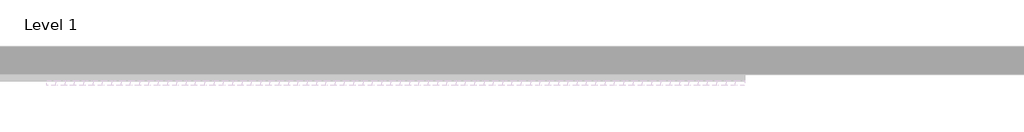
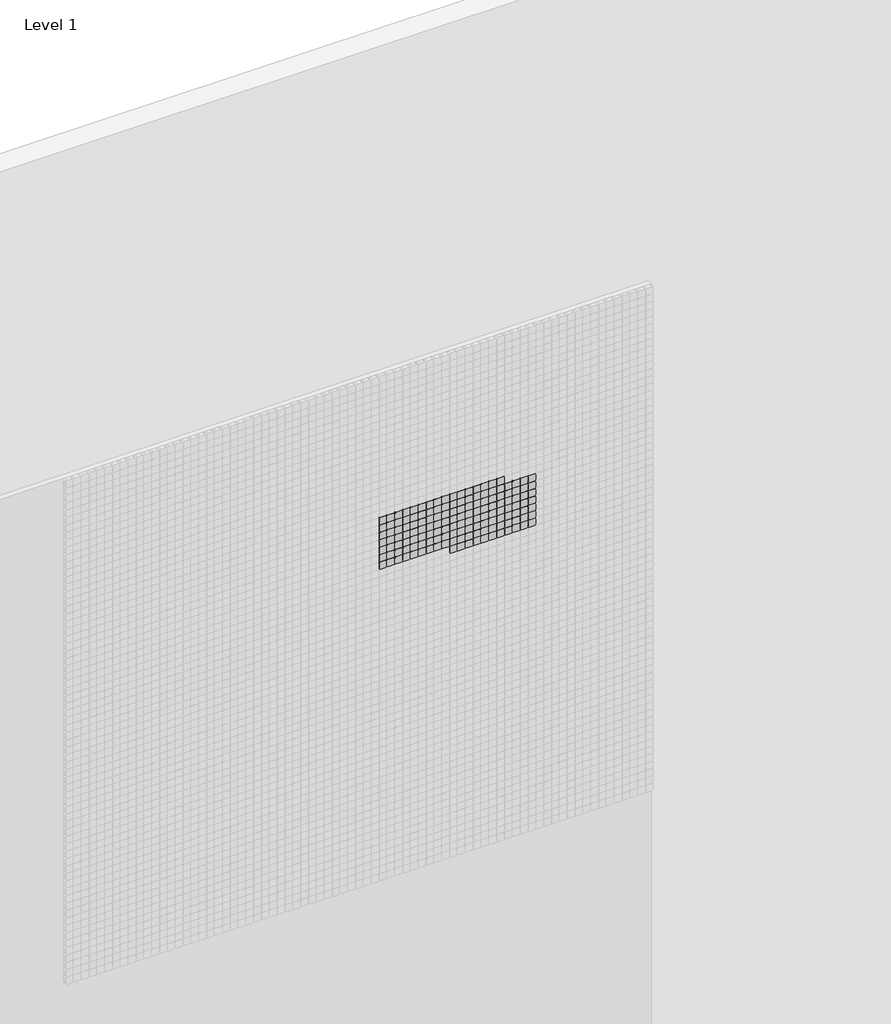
# One storey, part 51 of 71: 147 proxies.
"""IFC4 building model written with IfcOpenShell, lengths in millimetres."""

from ifc_helpers import new_model, si_unit, origin, place, context, project, spatial, transform, mapped, element, save
from components import generic_models_afde289c

model = new_model("IFC4")

# Units and contexts
model_context = context("Model", 3, world=origin())
ifc_project = project(units=[si_unit("LENGTHUNIT", "METRE", prefix="MILLI")], contexts=[model_context])

# Site, building, storey
site = spatial("IfcSite", under=ifc_project)
building = spatial("IfcBuilding", under=site)
storey = spatial("IfcBuildingStorey", under=building, Name="Level 1", Elevation=0.0)

# Proxies
placement = place(None, origin())
generic_models_shape = generic_models_afde289c(model_context)
element("IfcBuildingElementProxy", 1, Name="Pixel_M : Pixel_M", ObjectType="Pixel_M : Pixel_M", at=placement, inside=storey, context=model_context, shape_type="MappedRepresentation", body=[
    mapped(generic_models_shape, transform((8762.4280941, -75.0, 5016.3566215), x_axis=(1.0, 0.0, 0.0), y_axis=(0.0, 0.0, 1.0), z_axis=(0.0, -1.0, 0.0))),
])
element("IfcBuildingElementProxy", 2, Name="Pixel_M : Pixel_M", ObjectType="Pixel_M : Pixel_M", at=placement, inside=storey, context=model_context, shape_type="MappedRepresentation", body=[
    mapped(generic_models_shape, transform((8712.4280941, -75.0, 5016.3566215), x_axis=(1.0, 0.0, 0.0), y_axis=(0.0, 0.0, 1.0), z_axis=(0.0, -1.0, 0.0))),
])
element("IfcBuildingElementProxy", 3, Name="Pixel_M : Pixel_M", ObjectType="Pixel_M : Pixel_M", at=placement, inside=storey, context=model_context, shape_type="MappedRepresentation", body=[
    mapped(generic_models_shape, transform((8662.4280941, -75.0, 5016.3566215), x_axis=(1.0, 0.0, 0.0), y_axis=(0.0, 0.0, 1.0), z_axis=(0.0, -1.0, 0.0))),
])
element("IfcBuildingElementProxy", 4, Name="Pixel_M : Pixel_M", ObjectType="Pixel_M : Pixel_M", at=placement, inside=storey, context=model_context, shape_type="MappedRepresentation", body=[
    mapped(generic_models_shape, transform((8612.4280941, -75.0, 5016.3566215), x_axis=(1.0, 0.0, 0.0), y_axis=(0.0, 0.0, 1.0), z_axis=(0.0, -1.0, 0.0))),
])
element("IfcBuildingElementProxy", 5, Name="Pixel_M : Pixel_M", ObjectType="Pixel_M : Pixel_M", at=placement, inside=storey, context=model_context, shape_type="MappedRepresentation", body=[
    mapped(generic_models_shape, transform((8562.4280941, -75.0, 5016.3566215), x_axis=(1.0, 0.0, 0.0), y_axis=(0.0, 0.0, 1.0), z_axis=(0.0, -1.0, 0.0))),
])
element("IfcBuildingElementProxy", 6, Name="Pixel_M : Pixel_M", ObjectType="Pixel_M : Pixel_M", at=placement, inside=storey, context=model_context, shape_type="MappedRepresentation", body=[
    mapped(generic_models_shape, transform((8512.4280941, -75.0, 5016.3566215), x_axis=(1.0, 0.0, 0.0), y_axis=(0.0, 0.0, 1.0), z_axis=(0.0, -1.0, 0.0))),
])
element("IfcBuildingElementProxy", 7, Name="Pixel_M : Pixel_M", ObjectType="Pixel_M : Pixel_M", at=placement, inside=storey, context=model_context, shape_type="MappedRepresentation", body=[
    mapped(generic_models_shape, transform((8462.4280941, -75.0, 5016.3566215), x_axis=(1.0, 0.0, 0.0), y_axis=(0.0, 0.0, 1.0), z_axis=(0.0, -1.0, 0.0))),
])
element("IfcBuildingElementProxy", 8, Name="Pixel_M : Pixel_M", ObjectType="Pixel_M : Pixel_M", at=placement, inside=storey, context=model_context, shape_type="MappedRepresentation", body=[
    mapped(generic_models_shape, transform((8412.4280941, -75.0, 5016.3566215), x_axis=(1.0, 0.0, 0.0), y_axis=(0.0, 0.0, 1.0), z_axis=(0.0, -1.0, 0.0))),
])
element("IfcBuildingElementProxy", 9, Name="Pixel_M : Pixel_M", ObjectType="Pixel_M : Pixel_M", at=placement, inside=storey, context=model_context, shape_type="MappedRepresentation", body=[
    mapped(generic_models_shape, transform((8362.4280941, -75.0, 5016.3566215), x_axis=(1.0, 0.0, 0.0), y_axis=(0.0, 0.0, 1.0), z_axis=(0.0, -1.0, 0.0))),
])
element("IfcBuildingElementProxy", 10, Name="Pixel_M : Pixel_M", ObjectType="Pixel_M : Pixel_M", at=placement, inside=storey, context=model_context, shape_type="MappedRepresentation", body=[
    mapped(generic_models_shape, transform((8312.4280941, -75.0, 5016.3566215), x_axis=(1.0, 0.0, 0.0), y_axis=(0.0, 0.0, 1.0), z_axis=(0.0, -1.0, 0.0))),
])
element("IfcBuildingElementProxy", 11, Name="Pixel_M : Pixel_M", ObjectType="Pixel_M : Pixel_M", at=placement, inside=storey, context=model_context, shape_type="MappedRepresentation", body=[
    mapped(generic_models_shape, transform((8262.4280941, -75.0, 5016.3566215), x_axis=(1.0, 0.0, 0.0), y_axis=(0.0, 0.0, 1.0), z_axis=(0.0, -1.0, 0.0))),
])
element("IfcBuildingElementProxy", 12, Name="Pixel_M : Pixel_M", ObjectType="Pixel_M : Pixel_M", at=placement, inside=storey, context=model_context, shape_type="MappedRepresentation", body=[
    mapped(generic_models_shape, transform((8212.4280941, -75.0, 5016.3566215), x_axis=(1.0, 0.0, 0.0), y_axis=(0.0, 0.0, 1.0), z_axis=(0.0, -1.0, 0.0))),
])
element("IfcBuildingElementProxy", 13, Name="Pixel_M : Pixel_M", ObjectType="Pixel_M : Pixel_M", at=placement, inside=storey, context=model_context, shape_type="MappedRepresentation", body=[
    mapped(generic_models_shape, transform((8162.4280941, -75.0, 5016.3566215), x_axis=(1.0, 0.0, 0.0), y_axis=(0.0, 0.0, 1.0), z_axis=(0.0, -1.0, 0.0))),
])
element("IfcBuildingElementProxy", 14, Name="Pixel_M : Pixel_M", ObjectType="Pixel_M : Pixel_M", at=placement, inside=storey, context=model_context, shape_type="MappedRepresentation", body=[
    mapped(generic_models_shape, transform((8112.4280941, -75.0, 5016.3566215), x_axis=(1.0, 0.0, 0.0), y_axis=(0.0, 0.0, 1.0), z_axis=(0.0, -1.0, 0.0))),
])
element("IfcBuildingElementProxy", 15, Name="Pixel_M : Pixel_M", ObjectType="Pixel_M : Pixel_M", at=placement, inside=storey, context=model_context, shape_type="MappedRepresentation", body=[
    mapped(generic_models_shape, transform((8062.4280941, -75.0, 5016.3566215), x_axis=(1.0, 0.0, 0.0), y_axis=(0.0, 0.0, 1.0), z_axis=(0.0, -1.0, 0.0))),
])
element("IfcBuildingElementProxy", 16, Name="Pixel_M : Pixel_M", ObjectType="Pixel_M : Pixel_M", at=placement, inside=storey, context=model_context, shape_type="MappedRepresentation", body=[
    mapped(generic_models_shape, transform((8012.4280941, -75.0, 5016.3566215), x_axis=(1.0, 0.0, 0.0), y_axis=(0.0, 0.0, 1.0), z_axis=(0.0, -1.0, 0.0))),
])
element("IfcBuildingElementProxy", 17, Name="Pixel_M : Pixel_M", ObjectType="Pixel_M : Pixel_M", at=placement, inside=storey, context=model_context, shape_type="MappedRepresentation", body=[
    mapped(generic_models_shape, transform((8962.4280941, -75.0, 4966.3566215), x_axis=(1.0, 0.0, 0.0), y_axis=(0.0, 0.0, 1.0), z_axis=(0.0, -1.0, 0.0))),
])
element("IfcBuildingElementProxy", 18, Name="Pixel_M : Pixel_M", ObjectType="Pixel_M : Pixel_M", at=placement, inside=storey, context=model_context, shape_type="MappedRepresentation", body=[
    mapped(generic_models_shape, transform((8912.4280941, -75.0, 4966.3566215), x_axis=(1.0, 0.0, 0.0), y_axis=(0.0, 0.0, 1.0), z_axis=(0.0, -1.0, 0.0))),
])
element("IfcBuildingElementProxy", 19, Name="Pixel_M : Pixel_M", ObjectType="Pixel_M : Pixel_M", at=placement, inside=storey, context=model_context, shape_type="MappedRepresentation", body=[
    mapped(generic_models_shape, transform((8862.4280941, -75.0, 4966.3566215), x_axis=(1.0, 0.0, 0.0), y_axis=(0.0, 0.0, 1.0), z_axis=(0.0, -1.0, 0.0))),
])
element("IfcBuildingElementProxy", 20, Name="Pixel_M : Pixel_M", ObjectType="Pixel_M : Pixel_M", at=placement, inside=storey, context=model_context, shape_type="MappedRepresentation", body=[
    mapped(generic_models_shape, transform((8812.4280941, -75.0, 4966.3566215), x_axis=(1.0, 0.0, 0.0), y_axis=(0.0, 0.0, 1.0), z_axis=(0.0, -1.0, 0.0))),
])
element("IfcBuildingElementProxy", 21, Name="Pixel_M : Pixel_M", ObjectType="Pixel_M : Pixel_M", at=placement, inside=storey, context=model_context, shape_type="MappedRepresentation", body=[
    mapped(generic_models_shape, transform((8762.4280941, -75.0, 4966.3566215), x_axis=(1.0, 0.0, 0.0), y_axis=(0.0, 0.0, 1.0), z_axis=(0.0, -1.0, 0.0))),
])
element("IfcBuildingElementProxy", 22, Name="Pixel_M : Pixel_M", ObjectType="Pixel_M : Pixel_M", at=placement, inside=storey, context=model_context, shape_type="MappedRepresentation", body=[
    mapped(generic_models_shape, transform((8712.4280941, -75.0, 4966.3566215), x_axis=(1.0, 0.0, 0.0), y_axis=(0.0, 0.0, 1.0), z_axis=(0.0, -1.0, 0.0))),
])
element("IfcBuildingElementProxy", 23, Name="Pixel_M : Pixel_M", ObjectType="Pixel_M : Pixel_M", at=placement, inside=storey, context=model_context, shape_type="MappedRepresentation", body=[
    mapped(generic_models_shape, transform((8662.4280941, -75.0, 4966.3566215), x_axis=(1.0, 0.0, 0.0), y_axis=(0.0, 0.0, 1.0), z_axis=(0.0, -1.0, 0.0))),
])
element("IfcBuildingElementProxy", 24, Name="Pixel_M : Pixel_M", ObjectType="Pixel_M : Pixel_M", at=placement, inside=storey, context=model_context, shape_type="MappedRepresentation", body=[
    mapped(generic_models_shape, transform((8612.4280941, -75.0, 4966.3566215), x_axis=(1.0, 0.0, 0.0), y_axis=(0.0, 0.0, 1.0), z_axis=(0.0, -1.0, 0.0))),
])
element("IfcBuildingElementProxy", 25, Name="Pixel_M : Pixel_M", ObjectType="Pixel_M : Pixel_M", at=placement, inside=storey, context=model_context, shape_type="MappedRepresentation", body=[
    mapped(generic_models_shape, transform((8562.4280941, -75.0, 4966.3566215), x_axis=(1.0, 0.0, 0.0), y_axis=(0.0, 0.0, 1.0), z_axis=(0.0, -1.0, 0.0))),
])
element("IfcBuildingElementProxy", 26, Name="Pixel_M : Pixel_M", ObjectType="Pixel_M : Pixel_M", at=placement, inside=storey, context=model_context, shape_type="MappedRepresentation", body=[
    mapped(generic_models_shape, transform((8512.4280941, -75.0, 4966.3566215), x_axis=(1.0, 0.0, 0.0), y_axis=(0.0, 0.0, 1.0), z_axis=(0.0, -1.0, 0.0))),
])
element("IfcBuildingElementProxy", 27, Name="Pixel_M : Pixel_M", ObjectType="Pixel_M : Pixel_M", at=placement, inside=storey, context=model_context, shape_type="MappedRepresentation", body=[
    mapped(generic_models_shape, transform((8462.4280941, -75.0, 4966.3566215), x_axis=(1.0, 0.0, 0.0), y_axis=(0.0, 0.0, 1.0), z_axis=(0.0, -1.0, 0.0))),
])
element("IfcBuildingElementProxy", 28, Name="Pixel_M : Pixel_M", ObjectType="Pixel_M : Pixel_M", at=placement, inside=storey, context=model_context, shape_type="MappedRepresentation", body=[
    mapped(generic_models_shape, transform((8412.4280941, -75.0, 4966.3566215), x_axis=(1.0, 0.0, 0.0), y_axis=(0.0, 0.0, 1.0), z_axis=(0.0, -1.0, 0.0))),
])
element("IfcBuildingElementProxy", 29, Name="Pixel_M : Pixel_M", ObjectType="Pixel_M : Pixel_M", at=placement, inside=storey, context=model_context, shape_type="MappedRepresentation", body=[
    mapped(generic_models_shape, transform((8362.4280941, -75.0, 4966.3566215), x_axis=(1.0, 0.0, 0.0), y_axis=(0.0, 0.0, 1.0), z_axis=(0.0, -1.0, 0.0))),
])
element("IfcBuildingElementProxy", 30, Name="Pixel_M : Pixel_M", ObjectType="Pixel_M : Pixel_M", at=placement, inside=storey, context=model_context, shape_type="MappedRepresentation", body=[
    mapped(generic_models_shape, transform((8312.4280941, -75.0, 4966.3566215), x_axis=(1.0, 0.0, 0.0), y_axis=(0.0, 0.0, 1.0), z_axis=(0.0, -1.0, 0.0))),
])
element("IfcBuildingElementProxy", 31, Name="Pixel_M : Pixel_M", ObjectType="Pixel_M : Pixel_M", at=placement, inside=storey, context=model_context, shape_type="MappedRepresentation", body=[
    mapped(generic_models_shape, transform((8262.4280941, -75.0, 4966.3566215), x_axis=(1.0, 0.0, 0.0), y_axis=(0.0, 0.0, 1.0), z_axis=(0.0, -1.0, 0.0))),
])
element("IfcBuildingElementProxy", 32, Name="Pixel_M : Pixel_M", ObjectType="Pixel_M : Pixel_M", at=placement, inside=storey, context=model_context, shape_type="MappedRepresentation", body=[
    mapped(generic_models_shape, transform((8212.4280941, -75.0, 4966.3566215), x_axis=(1.0, 0.0, 0.0), y_axis=(0.0, 0.0, 1.0), z_axis=(0.0, -1.0, 0.0))),
])
element("IfcBuildingElementProxy", 33, Name="Pixel_M : Pixel_M", ObjectType="Pixel_M : Pixel_M", at=placement, inside=storey, context=model_context, shape_type="MappedRepresentation", body=[
    mapped(generic_models_shape, transform((8162.4280941, -75.0, 4966.3566215), x_axis=(1.0, 0.0, 0.0), y_axis=(0.0, 0.0, 1.0), z_axis=(0.0, -1.0, 0.0))),
])
element("IfcBuildingElementProxy", 34, Name="Pixel_M : Pixel_M", ObjectType="Pixel_M : Pixel_M", at=placement, inside=storey, context=model_context, shape_type="MappedRepresentation", body=[
    mapped(generic_models_shape, transform((8112.4280941, -75.0, 4966.3566215), x_axis=(1.0, 0.0, 0.0), y_axis=(0.0, 0.0, 1.0), z_axis=(0.0, -1.0, 0.0))),
])
element("IfcBuildingElementProxy", 35, Name="Pixel_M : Pixel_M", ObjectType="Pixel_M : Pixel_M", at=placement, inside=storey, context=model_context, shape_type="MappedRepresentation", body=[
    mapped(generic_models_shape, transform((8062.4280941, -75.0, 4966.3566215), x_axis=(1.0, 0.0, 0.0), y_axis=(0.0, 0.0, 1.0), z_axis=(0.0, -1.0, 0.0))),
])
element("IfcBuildingElementProxy", 36, Name="Pixel_M : Pixel_M", ObjectType="Pixel_M : Pixel_M", at=placement, inside=storey, context=model_context, shape_type="MappedRepresentation", body=[
    mapped(generic_models_shape, transform((8012.4280941, -75.0, 4966.3566215), x_axis=(1.0, 0.0, 0.0), y_axis=(0.0, 0.0, 1.0), z_axis=(0.0, -1.0, 0.0))),
])
element("IfcBuildingElementProxy", 37, Name="Pixel_M : Pixel_M", ObjectType="Pixel_M : Pixel_M", at=placement, inside=storey, context=model_context, shape_type="MappedRepresentation", body=[
    mapped(generic_models_shape, transform((8962.4280941, -75.0, 4916.3566215), x_axis=(1.0, 0.0, 0.0), y_axis=(0.0, 0.0, 1.0), z_axis=(0.0, -1.0, 0.0))),
])
element("IfcBuildingElementProxy", 38, Name="Pixel_M : Pixel_M", ObjectType="Pixel_M : Pixel_M", at=placement, inside=storey, context=model_context, shape_type="MappedRepresentation", body=[
    mapped(generic_models_shape, transform((8912.4280941, -75.0, 4916.3566215), x_axis=(1.0, 0.0, 0.0), y_axis=(0.0, 0.0, 1.0), z_axis=(0.0, -1.0, 0.0))),
])
element("IfcBuildingElementProxy", 39, Name="Pixel_M : Pixel_M", ObjectType="Pixel_M : Pixel_M", at=placement, inside=storey, context=model_context, shape_type="MappedRepresentation", body=[
    mapped(generic_models_shape, transform((8862.4280941, -75.0, 4916.3566215), x_axis=(1.0, 0.0, 0.0), y_axis=(0.0, 0.0, 1.0), z_axis=(0.0, -1.0, 0.0))),
])
element("IfcBuildingElementProxy", 40, Name="Pixel_M : Pixel_M", ObjectType="Pixel_M : Pixel_M", at=placement, inside=storey, context=model_context, shape_type="MappedRepresentation", body=[
    mapped(generic_models_shape, transform((8812.4280941, -75.0, 4916.3566215), x_axis=(1.0, 0.0, 0.0), y_axis=(0.0, 0.0, 1.0), z_axis=(0.0, -1.0, 0.0))),
])
element("IfcBuildingElementProxy", 41, Name="Pixel_M : Pixel_M", ObjectType="Pixel_M : Pixel_M", at=placement, inside=storey, context=model_context, shape_type="MappedRepresentation", body=[
    mapped(generic_models_shape, transform((8762.4280941, -75.0, 4916.3566215), x_axis=(1.0, 0.0, 0.0), y_axis=(0.0, 0.0, 1.0), z_axis=(0.0, -1.0, 0.0))),
])
element("IfcBuildingElementProxy", 42, Name="Pixel_M : Pixel_M", ObjectType="Pixel_M : Pixel_M", at=placement, inside=storey, context=model_context, shape_type="MappedRepresentation", body=[
    mapped(generic_models_shape, transform((8712.4280941, -75.0, 4916.3566215), x_axis=(1.0, 0.0, 0.0), y_axis=(0.0, 0.0, 1.0), z_axis=(0.0, -1.0, 0.0))),
])
element("IfcBuildingElementProxy", 43, Name="Pixel_M : Pixel_M", ObjectType="Pixel_M : Pixel_M", at=placement, inside=storey, context=model_context, shape_type="MappedRepresentation", body=[
    mapped(generic_models_shape, transform((8662.4280941, -75.0, 4916.3566215), x_axis=(1.0, 0.0, 0.0), y_axis=(0.0, 0.0, 1.0), z_axis=(0.0, -1.0, 0.0))),
])
element("IfcBuildingElementProxy", 44, Name="Pixel_M : Pixel_M", ObjectType="Pixel_M : Pixel_M", at=placement, inside=storey, context=model_context, shape_type="MappedRepresentation", body=[
    mapped(generic_models_shape, transform((8612.4280941, -75.0, 4916.3566215), x_axis=(1.0, 0.0, 0.0), y_axis=(0.0, 0.0, 1.0), z_axis=(0.0, -1.0, 0.0))),
])
element("IfcBuildingElementProxy", 45, Name="Pixel_M : Pixel_M", ObjectType="Pixel_M : Pixel_M", at=placement, inside=storey, context=model_context, shape_type="MappedRepresentation", body=[
    mapped(generic_models_shape, transform((8562.4280941, -75.0, 4916.3566215), x_axis=(1.0, 0.0, 0.0), y_axis=(0.0, 0.0, 1.0), z_axis=(0.0, -1.0, 0.0))),
])
element("IfcBuildingElementProxy", 46, Name="Pixel_M : Pixel_M", ObjectType="Pixel_M : Pixel_M", at=placement, inside=storey, context=model_context, shape_type="MappedRepresentation", body=[
    mapped(generic_models_shape, transform((8512.4280941, -75.0, 4916.3566215), x_axis=(1.0, 0.0, 0.0), y_axis=(0.0, 0.0, 1.0), z_axis=(0.0, -1.0, 0.0))),
])
element("IfcBuildingElementProxy", 47, Name="Pixel_M : Pixel_M", ObjectType="Pixel_M : Pixel_M", at=placement, inside=storey, context=model_context, shape_type="MappedRepresentation", body=[
    mapped(generic_models_shape, transform((8462.4280941, -75.0, 4916.3566215), x_axis=(1.0, 0.0, 0.0), y_axis=(0.0, 0.0, 1.0), z_axis=(0.0, -1.0, 0.0))),
])
element("IfcBuildingElementProxy", 48, Name="Pixel_M : Pixel_M", ObjectType="Pixel_M : Pixel_M", at=placement, inside=storey, context=model_context, shape_type="MappedRepresentation", body=[
    mapped(generic_models_shape, transform((8412.4280941, -75.0, 4916.3566215), x_axis=(1.0, 0.0, 0.0), y_axis=(0.0, 0.0, 1.0), z_axis=(0.0, -1.0, 0.0))),
])
element("IfcBuildingElementProxy", 49, Name="Pixel_M : Pixel_M", ObjectType="Pixel_M : Pixel_M", at=placement, inside=storey, context=model_context, shape_type="MappedRepresentation", body=[
    mapped(generic_models_shape, transform((8362.4280941, -75.0, 4916.3566215), x_axis=(1.0, 0.0, 0.0), y_axis=(0.0, 0.0, 1.0), z_axis=(0.0, -1.0, 0.0))),
])
element("IfcBuildingElementProxy", 50, Name="Pixel_M : Pixel_M", ObjectType="Pixel_M : Pixel_M", at=placement, inside=storey, context=model_context, shape_type="MappedRepresentation", body=[
    mapped(generic_models_shape, transform((8312.4280941, -75.0, 4916.3566215), x_axis=(1.0, 0.0, 0.0), y_axis=(0.0, 0.0, 1.0), z_axis=(0.0, -1.0, 0.0))),
])
element("IfcBuildingElementProxy", 51, Name="Pixel_M : Pixel_M", ObjectType="Pixel_M : Pixel_M", at=placement, inside=storey, context=model_context, shape_type="MappedRepresentation", body=[
    mapped(generic_models_shape, transform((8262.4280941, -75.0, 4916.3566215), x_axis=(1.0, 0.0, 0.0), y_axis=(0.0, 0.0, 1.0), z_axis=(0.0, -1.0, 0.0))),
])
element("IfcBuildingElementProxy", 52, Name="Pixel_M : Pixel_M", ObjectType="Pixel_M : Pixel_M", at=placement, inside=storey, context=model_context, shape_type="MappedRepresentation", body=[
    mapped(generic_models_shape, transform((8212.4280941, -75.0, 4916.3566215), x_axis=(1.0, 0.0, 0.0), y_axis=(0.0, 0.0, 1.0), z_axis=(0.0, -1.0, 0.0))),
])
element("IfcBuildingElementProxy", 53, Name="Pixel_M : Pixel_M", ObjectType="Pixel_M : Pixel_M", at=placement, inside=storey, context=model_context, shape_type="MappedRepresentation", body=[
    mapped(generic_models_shape, transform((8162.4280941, -75.0, 4916.3566215), x_axis=(1.0, 0.0, 0.0), y_axis=(0.0, 0.0, 1.0), z_axis=(0.0, -1.0, 0.0))),
])
element("IfcBuildingElementProxy", 54, Name="Pixel_M : Pixel_M", ObjectType="Pixel_M : Pixel_M", at=placement, inside=storey, context=model_context, shape_type="MappedRepresentation", body=[
    mapped(generic_models_shape, transform((8112.4280941, -75.0, 4916.3566215), x_axis=(1.0, 0.0, 0.0), y_axis=(0.0, 0.0, 1.0), z_axis=(0.0, -1.0, 0.0))),
])
element("IfcBuildingElementProxy", 55, Name="Pixel_M : Pixel_M", ObjectType="Pixel_M : Pixel_M", at=placement, inside=storey, context=model_context, shape_type="MappedRepresentation", body=[
    mapped(generic_models_shape, transform((8062.4280941, -75.0, 4916.3566215), x_axis=(1.0, 0.0, 0.0), y_axis=(0.0, 0.0, 1.0), z_axis=(0.0, -1.0, 0.0))),
])
element("IfcBuildingElementProxy", 56, Name="Pixel_M : Pixel_M", ObjectType="Pixel_M : Pixel_M", at=placement, inside=storey, context=model_context, shape_type="MappedRepresentation", body=[
    mapped(generic_models_shape, transform((8012.4280941, -75.0, 4916.3566215), x_axis=(1.0, 0.0, 0.0), y_axis=(0.0, 0.0, 1.0), z_axis=(0.0, -1.0, 0.0))),
])
element("IfcBuildingElementProxy", 57, Name="Pixel_M : Pixel_M", ObjectType="Pixel_M : Pixel_M", at=placement, inside=storey, context=model_context, shape_type="MappedRepresentation", body=[
    mapped(generic_models_shape, transform((8962.4280941, -75.0, 4866.3566215), x_axis=(1.0, 0.0, 0.0), y_axis=(0.0, 0.0, 1.0), z_axis=(0.0, -1.0, 0.0))),
])
element("IfcBuildingElementProxy", 58, Name="Pixel_M : Pixel_M", ObjectType="Pixel_M : Pixel_M", at=placement, inside=storey, context=model_context, shape_type="MappedRepresentation", body=[
    mapped(generic_models_shape, transform((8912.4280941, -75.0, 4866.3566215), x_axis=(1.0, 0.0, 0.0), y_axis=(0.0, 0.0, 1.0), z_axis=(0.0, -1.0, 0.0))),
])
element("IfcBuildingElementProxy", 59, Name="Pixel_M : Pixel_M", ObjectType="Pixel_M : Pixel_M", at=placement, inside=storey, context=model_context, shape_type="MappedRepresentation", body=[
    mapped(generic_models_shape, transform((8862.4280941, -75.0, 4866.3566215), x_axis=(1.0, 0.0, 0.0), y_axis=(0.0, 0.0, 1.0), z_axis=(0.0, -1.0, 0.0))),
])
element("IfcBuildingElementProxy", 60, Name="Pixel_M : Pixel_M", ObjectType="Pixel_M : Pixel_M", at=placement, inside=storey, context=model_context, shape_type="MappedRepresentation", body=[
    mapped(generic_models_shape, transform((8812.4280941, -75.0, 4866.3566215), x_axis=(1.0, 0.0, 0.0), y_axis=(0.0, 0.0, 1.0), z_axis=(0.0, -1.0, 0.0))),
])
element("IfcBuildingElementProxy", 61, Name="Pixel_M : Pixel_M", ObjectType="Pixel_M : Pixel_M", at=placement, inside=storey, context=model_context, shape_type="MappedRepresentation", body=[
    mapped(generic_models_shape, transform((8762.4280941, -75.0, 4866.3566215), x_axis=(1.0, 0.0, 0.0), y_axis=(0.0, 0.0, 1.0), z_axis=(0.0, -1.0, 0.0))),
])
element("IfcBuildingElementProxy", 62, Name="Pixel_M : Pixel_M", ObjectType="Pixel_M : Pixel_M", at=placement, inside=storey, context=model_context, shape_type="MappedRepresentation", body=[
    mapped(generic_models_shape, transform((8712.4280941, -75.0, 4866.3566215), x_axis=(1.0, 0.0, 0.0), y_axis=(0.0, 0.0, 1.0), z_axis=(0.0, -1.0, 0.0))),
])
element("IfcBuildingElementProxy", 63, Name="Pixel_M : Pixel_M", ObjectType="Pixel_M : Pixel_M", at=placement, inside=storey, context=model_context, shape_type="MappedRepresentation", body=[
    mapped(generic_models_shape, transform((8662.4280941, -75.0, 4866.3566215), x_axis=(1.0, 0.0, 0.0), y_axis=(0.0, 0.0, 1.0), z_axis=(0.0, -1.0, 0.0))),
])
element("IfcBuildingElementProxy", 64, Name="Pixel_M : Pixel_M", ObjectType="Pixel_M : Pixel_M", at=placement, inside=storey, context=model_context, shape_type="MappedRepresentation", body=[
    mapped(generic_models_shape, transform((8612.4280941, -75.0, 4866.3566215), x_axis=(1.0, 0.0, 0.0), y_axis=(0.0, 0.0, 1.0), z_axis=(0.0, -1.0, 0.0))),
])
element("IfcBuildingElementProxy", 65, Name="Pixel_M : Pixel_M", ObjectType="Pixel_M : Pixel_M", at=placement, inside=storey, context=model_context, shape_type="MappedRepresentation", body=[
    mapped(generic_models_shape, transform((8562.4280941, -75.0, 4866.3566215), x_axis=(1.0, 0.0, 0.0), y_axis=(0.0, 0.0, 1.0), z_axis=(0.0, -1.0, 0.0))),
])
element("IfcBuildingElementProxy", 66, Name="Pixel_M : Pixel_M", ObjectType="Pixel_M : Pixel_M", at=placement, inside=storey, context=model_context, shape_type="MappedRepresentation", body=[
    mapped(generic_models_shape, transform((8512.4280941, -75.0, 4866.3566215), x_axis=(1.0, 0.0, 0.0), y_axis=(0.0, 0.0, 1.0), z_axis=(0.0, -1.0, 0.0))),
])
element("IfcBuildingElementProxy", 67, Name="Pixel_M : Pixel_M", ObjectType="Pixel_M : Pixel_M", at=placement, inside=storey, context=model_context, shape_type="MappedRepresentation", body=[
    mapped(generic_models_shape, transform((8462.4280941, -75.0, 4866.3566215), x_axis=(1.0, 0.0, 0.0), y_axis=(0.0, 0.0, 1.0), z_axis=(0.0, -1.0, 0.0))),
])
element("IfcBuildingElementProxy", 68, Name="Pixel_M : Pixel_M", ObjectType="Pixel_M : Pixel_M", at=placement, inside=storey, context=model_context, shape_type="MappedRepresentation", body=[
    mapped(generic_models_shape, transform((8412.4280941, -75.0, 4866.3566215), x_axis=(1.0, 0.0, 0.0), y_axis=(0.0, 0.0, 1.0), z_axis=(0.0, -1.0, 0.0))),
])
element("IfcBuildingElementProxy", 69, Name="Pixel_M : Pixel_M", ObjectType="Pixel_M : Pixel_M", at=placement, inside=storey, context=model_context, shape_type="MappedRepresentation", body=[
    mapped(generic_models_shape, transform((8362.4280941, -75.0, 4866.3566215), x_axis=(1.0, 0.0, 0.0), y_axis=(0.0, 0.0, 1.0), z_axis=(0.0, -1.0, 0.0))),
])
element("IfcBuildingElementProxy", 70, Name="Pixel_M : Pixel_M", ObjectType="Pixel_M : Pixel_M", at=placement, inside=storey, context=model_context, shape_type="MappedRepresentation", body=[
    mapped(generic_models_shape, transform((8312.4280941, -75.0, 4866.3566215), x_axis=(1.0, 0.0, 0.0), y_axis=(0.0, 0.0, 1.0), z_axis=(0.0, -1.0, 0.0))),
])
element("IfcBuildingElementProxy", 71, Name="Pixel_M : Pixel_M", ObjectType="Pixel_M : Pixel_M", at=placement, inside=storey, context=model_context, shape_type="MappedRepresentation", body=[
    mapped(generic_models_shape, transform((8262.4280941, -75.0, 4866.3566215), x_axis=(1.0, 0.0, 0.0), y_axis=(0.0, 0.0, 1.0), z_axis=(0.0, -1.0, 0.0))),
])
element("IfcBuildingElementProxy", 72, Name="Pixel_M : Pixel_M", ObjectType="Pixel_M : Pixel_M", at=placement, inside=storey, context=model_context, shape_type="MappedRepresentation", body=[
    mapped(generic_models_shape, transform((8212.4280941, -75.0, 4866.3566215), x_axis=(1.0, 0.0, 0.0), y_axis=(0.0, 0.0, 1.0), z_axis=(0.0, -1.0, 0.0))),
])
element("IfcBuildingElementProxy", 73, Name="Pixel_M : Pixel_M", ObjectType="Pixel_M : Pixel_M", at=placement, inside=storey, context=model_context, shape_type="MappedRepresentation", body=[
    mapped(generic_models_shape, transform((8162.4280941, -75.0, 4866.3566215), x_axis=(1.0, 0.0, 0.0), y_axis=(0.0, 0.0, 1.0), z_axis=(0.0, -1.0, 0.0))),
])
element("IfcBuildingElementProxy", 74, Name="Pixel_M : Pixel_M", ObjectType="Pixel_M : Pixel_M", at=placement, inside=storey, context=model_context, shape_type="MappedRepresentation", body=[
    mapped(generic_models_shape, transform((8112.4280941, -75.0, 4866.3566215), x_axis=(1.0, 0.0, 0.0), y_axis=(0.0, 0.0, 1.0), z_axis=(0.0, -1.0, 0.0))),
])
element("IfcBuildingElementProxy", 75, Name="Pixel_M : Pixel_M", ObjectType="Pixel_M : Pixel_M", at=placement, inside=storey, context=model_context, shape_type="MappedRepresentation", body=[
    mapped(generic_models_shape, transform((8062.4280941, -75.0, 4866.3566215), x_axis=(1.0, 0.0, 0.0), y_axis=(0.0, 0.0, 1.0), z_axis=(0.0, -1.0, 0.0))),
])
element("IfcBuildingElementProxy", 76, Name="Pixel_M : Pixel_M", ObjectType="Pixel_M : Pixel_M", at=placement, inside=storey, context=model_context, shape_type="MappedRepresentation", body=[
    mapped(generic_models_shape, transform((8012.4280941, -75.0, 4866.3566215), x_axis=(1.0, 0.0, 0.0), y_axis=(0.0, 0.0, 1.0), z_axis=(0.0, -1.0, 0.0))),
])
element("IfcBuildingElementProxy", 77, Name="Pixel_M : Pixel_M", ObjectType="Pixel_M : Pixel_M", at=placement, inside=storey, context=model_context, shape_type="MappedRepresentation", body=[
    mapped(generic_models_shape, transform((8962.4280941, -75.0, 4816.3566215), x_axis=(1.0, 0.0, 0.0), y_axis=(0.0, 0.0, 1.0), z_axis=(0.0, -1.0, 0.0))),
])
element("IfcBuildingElementProxy", 78, Name="Pixel_M : Pixel_M", ObjectType="Pixel_M : Pixel_M", at=placement, inside=storey, context=model_context, shape_type="MappedRepresentation", body=[
    mapped(generic_models_shape, transform((8912.4280941, -75.0, 4816.3566215), x_axis=(1.0, 0.0, 0.0), y_axis=(0.0, 0.0, 1.0), z_axis=(0.0, -1.0, 0.0))),
])
element("IfcBuildingElementProxy", 79, Name="Pixel_M : Pixel_M", ObjectType="Pixel_M : Pixel_M", at=placement, inside=storey, context=model_context, shape_type="MappedRepresentation", body=[
    mapped(generic_models_shape, transform((8862.4280941, -75.0, 4816.3566215), x_axis=(1.0, 0.0, 0.0), y_axis=(0.0, 0.0, 1.0), z_axis=(0.0, -1.0, 0.0))),
])
element("IfcBuildingElementProxy", 80, Name="Pixel_M : Pixel_M", ObjectType="Pixel_M : Pixel_M", at=placement, inside=storey, context=model_context, shape_type="MappedRepresentation", body=[
    mapped(generic_models_shape, transform((8812.4280941, -75.0, 4816.3566215), x_axis=(1.0, 0.0, 0.0), y_axis=(0.0, 0.0, 1.0), z_axis=(0.0, -1.0, 0.0))),
])
element("IfcBuildingElementProxy", 81, Name="Pixel_M : Pixel_M", ObjectType="Pixel_M : Pixel_M", at=placement, inside=storey, context=model_context, shape_type="MappedRepresentation", body=[
    mapped(generic_models_shape, transform((8762.4280941, -75.0, 4816.3566215), x_axis=(1.0, 0.0, 0.0), y_axis=(0.0, 0.0, 1.0), z_axis=(0.0, -1.0, 0.0))),
])
element("IfcBuildingElementProxy", 82, Name="Pixel_M : Pixel_M", ObjectType="Pixel_M : Pixel_M", at=placement, inside=storey, context=model_context, shape_type="MappedRepresentation", body=[
    mapped(generic_models_shape, transform((8712.4280941, -75.0, 4816.3566215), x_axis=(1.0, 0.0, 0.0), y_axis=(0.0, 0.0, 1.0), z_axis=(0.0, -1.0, 0.0))),
])
element("IfcBuildingElementProxy", 83, Name="Pixel_M : Pixel_M", ObjectType="Pixel_M : Pixel_M", at=placement, inside=storey, context=model_context, shape_type="MappedRepresentation", body=[
    mapped(generic_models_shape, transform((8662.4280941, -75.0, 4816.3566215), x_axis=(1.0, 0.0, 0.0), y_axis=(0.0, 0.0, 1.0), z_axis=(0.0, -1.0, 0.0))),
])
element("IfcBuildingElementProxy", 84, Name="Pixel_M : Pixel_M", ObjectType="Pixel_M : Pixel_M", at=placement, inside=storey, context=model_context, shape_type="MappedRepresentation", body=[
    mapped(generic_models_shape, transform((8612.4280941, -75.0, 4816.3566215), x_axis=(1.0, 0.0, 0.0), y_axis=(0.0, 0.0, 1.0), z_axis=(0.0, -1.0, 0.0))),
])
element("IfcBuildingElementProxy", 85, Name="Pixel_M : Pixel_M", ObjectType="Pixel_M : Pixel_M", at=placement, inside=storey, context=model_context, shape_type="MappedRepresentation", body=[
    mapped(generic_models_shape, transform((8562.4280941, -75.0, 4816.3566215), x_axis=(1.0, 0.0, 0.0), y_axis=(0.0, 0.0, 1.0), z_axis=(0.0, -1.0, 0.0))),
])
element("IfcBuildingElementProxy", 86, Name="Pixel_M : Pixel_M", ObjectType="Pixel_M : Pixel_M", at=placement, inside=storey, context=model_context, shape_type="MappedRepresentation", body=[
    mapped(generic_models_shape, transform((8512.4280941, -75.0, 4816.3566215), x_axis=(1.0, 0.0, 0.0), y_axis=(0.0, 0.0, 1.0), z_axis=(0.0, -1.0, 0.0))),
])
element("IfcBuildingElementProxy", 87, Name="Pixel_M : Pixel_M", ObjectType="Pixel_M : Pixel_M", at=placement, inside=storey, context=model_context, shape_type="MappedRepresentation", body=[
    mapped(generic_models_shape, transform((8462.4280941, -75.0, 4816.3566215), x_axis=(1.0, 0.0, 0.0), y_axis=(0.0, 0.0, 1.0), z_axis=(0.0, -1.0, 0.0))),
])
element("IfcBuildingElementProxy", 88, Name="Pixel_M : Pixel_M", ObjectType="Pixel_M : Pixel_M", at=placement, inside=storey, context=model_context, shape_type="MappedRepresentation", body=[
    mapped(generic_models_shape, transform((8412.4280941, -75.0, 4816.3566215), x_axis=(1.0, 0.0, 0.0), y_axis=(0.0, 0.0, 1.0), z_axis=(0.0, -1.0, 0.0))),
])
element("IfcBuildingElementProxy", 89, Name="Pixel_M : Pixel_M", ObjectType="Pixel_M : Pixel_M", at=placement, inside=storey, context=model_context, shape_type="MappedRepresentation", body=[
    mapped(generic_models_shape, transform((8362.4280941, -75.0, 4816.3566215), x_axis=(1.0, 0.0, 0.0), y_axis=(0.0, 0.0, 1.0), z_axis=(0.0, -1.0, 0.0))),
])
element("IfcBuildingElementProxy", 90, Name="Pixel_M : Pixel_M", ObjectType="Pixel_M : Pixel_M", at=placement, inside=storey, context=model_context, shape_type="MappedRepresentation", body=[
    mapped(generic_models_shape, transform((8312.4280941, -75.0, 4816.3566215), x_axis=(1.0, 0.0, 0.0), y_axis=(0.0, 0.0, 1.0), z_axis=(0.0, -1.0, 0.0))),
])
element("IfcBuildingElementProxy", 91, Name="Pixel_M : Pixel_M", ObjectType="Pixel_M : Pixel_M", at=placement, inside=storey, context=model_context, shape_type="MappedRepresentation", body=[
    mapped(generic_models_shape, transform((8262.4280941, -75.0, 4816.3566215), x_axis=(1.0, 0.0, 0.0), y_axis=(0.0, 0.0, 1.0), z_axis=(0.0, -1.0, 0.0))),
])
element("IfcBuildingElementProxy", 92, Name="Pixel_M : Pixel_M", ObjectType="Pixel_M : Pixel_M", at=placement, inside=storey, context=model_context, shape_type="MappedRepresentation", body=[
    mapped(generic_models_shape, transform((8212.4280941, -75.0, 4816.3566215), x_axis=(1.0, 0.0, 0.0), y_axis=(0.0, 0.0, 1.0), z_axis=(0.0, -1.0, 0.0))),
])
element("IfcBuildingElementProxy", 93, Name="Pixel_M : Pixel_M", ObjectType="Pixel_M : Pixel_M", at=placement, inside=storey, context=model_context, shape_type="MappedRepresentation", body=[
    mapped(generic_models_shape, transform((8162.4280941, -75.0, 4816.3566215), x_axis=(1.0, 0.0, 0.0), y_axis=(0.0, 0.0, 1.0), z_axis=(0.0, -1.0, 0.0))),
])
element("IfcBuildingElementProxy", 94, Name="Pixel_M : Pixel_M", ObjectType="Pixel_M : Pixel_M", at=placement, inside=storey, context=model_context, shape_type="MappedRepresentation", body=[
    mapped(generic_models_shape, transform((8112.4280941, -75.0, 4816.3566215), x_axis=(1.0, 0.0, 0.0), y_axis=(0.0, 0.0, 1.0), z_axis=(0.0, -1.0, 0.0))),
])
element("IfcBuildingElementProxy", 95, Name="Pixel_M : Pixel_M", ObjectType="Pixel_M : Pixel_M", at=placement, inside=storey, context=model_context, shape_type="MappedRepresentation", body=[
    mapped(generic_models_shape, transform((8062.4280941, -75.0, 4816.3566215), x_axis=(1.0, 0.0, 0.0), y_axis=(0.0, 0.0, 1.0), z_axis=(0.0, -1.0, 0.0))),
])
element("IfcBuildingElementProxy", 96, Name="Pixel_M : Pixel_M", ObjectType="Pixel_M : Pixel_M", at=placement, inside=storey, context=model_context, shape_type="MappedRepresentation", body=[
    mapped(generic_models_shape, transform((8012.4280941, -75.0, 4816.3566215), x_axis=(1.0, 0.0, 0.0), y_axis=(0.0, 0.0, 1.0), z_axis=(0.0, -1.0, 0.0))),
])
element("IfcBuildingElementProxy", 97, Name="Pixel_M : Pixel_M", ObjectType="Pixel_M : Pixel_M", at=placement, inside=storey, context=model_context, shape_type="MappedRepresentation", body=[
    mapped(generic_models_shape, transform((8962.4280941, -75.0, 4766.3566215), x_axis=(1.0, 0.0, 0.0), y_axis=(0.0, 0.0, 1.0), z_axis=(0.0, -1.0, 0.0))),
])
element("IfcBuildingElementProxy", 98, Name="Pixel_M : Pixel_M", ObjectType="Pixel_M : Pixel_M", at=placement, inside=storey, context=model_context, shape_type="MappedRepresentation", body=[
    mapped(generic_models_shape, transform((8912.4280941, -75.0, 4766.3566215), x_axis=(1.0, 0.0, 0.0), y_axis=(0.0, 0.0, 1.0), z_axis=(0.0, -1.0, 0.0))),
])
element("IfcBuildingElementProxy", 99, Name="Pixel_M : Pixel_M", ObjectType="Pixel_M : Pixel_M", at=placement, inside=storey, context=model_context, shape_type="MappedRepresentation", body=[
    mapped(generic_models_shape, transform((8862.4280941, -75.0, 4766.3566215), x_axis=(1.0, 0.0, 0.0), y_axis=(0.0, 0.0, 1.0), z_axis=(0.0, -1.0, 0.0))),
])
element("IfcBuildingElementProxy", 100, Name="Pixel_M : Pixel_M", ObjectType="Pixel_M : Pixel_M", at=placement, inside=storey, context=model_context, shape_type="MappedRepresentation", body=[
    mapped(generic_models_shape, transform((8812.4280941, -75.0, 4766.3566215), x_axis=(1.0, 0.0, 0.0), y_axis=(0.0, 0.0, 1.0), z_axis=(0.0, -1.0, 0.0))),
])
element("IfcBuildingElementProxy", 101, Name="Pixel_M : Pixel_M", ObjectType="Pixel_M : Pixel_M", at=placement, inside=storey, context=model_context, shape_type="MappedRepresentation", body=[
    mapped(generic_models_shape, transform((8762.4280941, -75.0, 4766.3566215), x_axis=(1.0, 0.0, 0.0), y_axis=(0.0, 0.0, 1.0), z_axis=(0.0, -1.0, 0.0))),
])
element("IfcBuildingElementProxy", 102, Name="Pixel_M : Pixel_M", ObjectType="Pixel_M : Pixel_M", at=placement, inside=storey, context=model_context, shape_type="MappedRepresentation", body=[
    mapped(generic_models_shape, transform((8712.4280941, -75.0, 4766.3566215), x_axis=(1.0, 0.0, 0.0), y_axis=(0.0, 0.0, 1.0), z_axis=(0.0, -1.0, 0.0))),
])
element("IfcBuildingElementProxy", 103, Name="Pixel_M : Pixel_M", ObjectType="Pixel_M : Pixel_M", at=placement, inside=storey, context=model_context, shape_type="MappedRepresentation", body=[
    mapped(generic_models_shape, transform((8662.4280941, -75.0, 4766.3566215), x_axis=(1.0, 0.0, 0.0), y_axis=(0.0, 0.0, 1.0), z_axis=(0.0, -1.0, 0.0))),
])
element("IfcBuildingElementProxy", 104, Name="Pixel_M : Pixel_M", ObjectType="Pixel_M : Pixel_M", at=placement, inside=storey, context=model_context, shape_type="MappedRepresentation", body=[
    mapped(generic_models_shape, transform((8612.4280941, -75.0, 4766.3566215), x_axis=(1.0, 0.0, 0.0), y_axis=(0.0, 0.0, 1.0), z_axis=(0.0, -1.0, 0.0))),
])
element("IfcBuildingElementProxy", 105, Name="Pixel_M : Pixel_M", ObjectType="Pixel_M : Pixel_M", at=placement, inside=storey, context=model_context, shape_type="MappedRepresentation", body=[
    mapped(generic_models_shape, transform((8562.4280941, -75.0, 4766.3566215), x_axis=(1.0, 0.0, 0.0), y_axis=(0.0, 0.0, 1.0), z_axis=(0.0, -1.0, 0.0))),
])
element("IfcBuildingElementProxy", 106, Name="Pixel_M : Pixel_M", ObjectType="Pixel_M : Pixel_M", at=placement, inside=storey, context=model_context, shape_type="MappedRepresentation", body=[
    mapped(generic_models_shape, transform((8512.4280941, -75.0, 4766.3566215), x_axis=(1.0, 0.0, 0.0), y_axis=(0.0, 0.0, 1.0), z_axis=(0.0, -1.0, 0.0))),
])
element("IfcBuildingElementProxy", 107, Name="Pixel_M : Pixel_M", ObjectType="Pixel_M : Pixel_M", at=placement, inside=storey, context=model_context, shape_type="MappedRepresentation", body=[
    mapped(generic_models_shape, transform((8462.4280941, -75.0, 4766.3566215), x_axis=(1.0, 0.0, 0.0), y_axis=(0.0, 0.0, 1.0), z_axis=(0.0, -1.0, 0.0))),
])
element("IfcBuildingElementProxy", 108, Name="Pixel_M : Pixel_M", ObjectType="Pixel_M : Pixel_M", at=placement, inside=storey, context=model_context, shape_type="MappedRepresentation", body=[
    mapped(generic_models_shape, transform((8412.4280941, -75.0, 4766.3566215), x_axis=(1.0, 0.0, 0.0), y_axis=(0.0, 0.0, 1.0), z_axis=(0.0, -1.0, 0.0))),
])
element("IfcBuildingElementProxy", 109, Name="Pixel_M : Pixel_M", ObjectType="Pixel_M : Pixel_M", at=placement, inside=storey, context=model_context, shape_type="MappedRepresentation", body=[
    mapped(generic_models_shape, transform((8362.4280941, -75.0, 4766.3566215), x_axis=(1.0, 0.0, 0.0), y_axis=(0.0, 0.0, 1.0), z_axis=(0.0, -1.0, 0.0))),
])
element("IfcBuildingElementProxy", 110, Name="Pixel_M : Pixel_M", ObjectType="Pixel_M : Pixel_M", at=placement, inside=storey, context=model_context, shape_type="MappedRepresentation", body=[
    mapped(generic_models_shape, transform((8312.4280941, -75.0, 4766.3566215), x_axis=(1.0, 0.0, 0.0), y_axis=(0.0, 0.0, 1.0), z_axis=(0.0, -1.0, 0.0))),
])
element("IfcBuildingElementProxy", 111, Name="Pixel_M : Pixel_M", ObjectType="Pixel_M : Pixel_M", at=placement, inside=storey, context=model_context, shape_type="MappedRepresentation", body=[
    mapped(generic_models_shape, transform((8262.4280941, -75.0, 4766.3566215), x_axis=(1.0, 0.0, 0.0), y_axis=(0.0, 0.0, 1.0), z_axis=(0.0, -1.0, 0.0))),
])
element("IfcBuildingElementProxy", 112, Name="Pixel_M : Pixel_M", ObjectType="Pixel_M : Pixel_M", at=placement, inside=storey, context=model_context, shape_type="MappedRepresentation", body=[
    mapped(generic_models_shape, transform((8212.4280941, -75.0, 4766.3566215), x_axis=(1.0, 0.0, 0.0), y_axis=(0.0, 0.0, 1.0), z_axis=(0.0, -1.0, 0.0))),
])
element("IfcBuildingElementProxy", 113, Name="Pixel_M : Pixel_M", ObjectType="Pixel_M : Pixel_M", at=placement, inside=storey, context=model_context, shape_type="MappedRepresentation", body=[
    mapped(generic_models_shape, transform((8162.4280941, -75.0, 4766.3566215), x_axis=(1.0, 0.0, 0.0), y_axis=(0.0, 0.0, 1.0), z_axis=(0.0, -1.0, 0.0))),
])
element("IfcBuildingElementProxy", 114, Name="Pixel_M : Pixel_M", ObjectType="Pixel_M : Pixel_M", at=placement, inside=storey, context=model_context, shape_type="MappedRepresentation", body=[
    mapped(generic_models_shape, transform((8112.4280941, -75.0, 4766.3566215), x_axis=(1.0, 0.0, 0.0), y_axis=(0.0, 0.0, 1.0), z_axis=(0.0, -1.0, 0.0))),
])
element("IfcBuildingElementProxy", 115, Name="Pixel_M : Pixel_M", ObjectType="Pixel_M : Pixel_M", at=placement, inside=storey, context=model_context, shape_type="MappedRepresentation", body=[
    mapped(generic_models_shape, transform((8062.4280941, -75.0, 4766.3566215), x_axis=(1.0, 0.0, 0.0), y_axis=(0.0, 0.0, 1.0), z_axis=(0.0, -1.0, 0.0))),
])
element("IfcBuildingElementProxy", 116, Name="Pixel_M : Pixel_M", ObjectType="Pixel_M : Pixel_M", at=placement, inside=storey, context=model_context, shape_type="MappedRepresentation", body=[
    mapped(generic_models_shape, transform((8012.4280941, -75.0, 4766.3566215), x_axis=(1.0, 0.0, 0.0), y_axis=(0.0, 0.0, 1.0), z_axis=(0.0, -1.0, 0.0))),
])
element("IfcBuildingElementProxy", 117, Name="Pixel_M : Pixel_M", ObjectType="Pixel_M : Pixel_M", at=placement, inside=storey, context=model_context, shape_type="MappedRepresentation", body=[
    mapped(generic_models_shape, transform((8962.4280941, -75.0, 4716.3566215), x_axis=(1.0, 0.0, 0.0), y_axis=(0.0, 0.0, 1.0), z_axis=(0.0, -1.0, 0.0))),
])
element("IfcBuildingElementProxy", 118, Name="Pixel_M : Pixel_M", ObjectType="Pixel_M : Pixel_M", at=placement, inside=storey, context=model_context, shape_type="MappedRepresentation", body=[
    mapped(generic_models_shape, transform((8912.4280941, -75.0, 4716.3566215), x_axis=(1.0, 0.0, 0.0), y_axis=(0.0, 0.0, 1.0), z_axis=(0.0, -1.0, 0.0))),
])
element("IfcBuildingElementProxy", 119, Name="Pixel_M : Pixel_M", ObjectType="Pixel_M : Pixel_M", at=placement, inside=storey, context=model_context, shape_type="MappedRepresentation", body=[
    mapped(generic_models_shape, transform((8862.4280941, -75.0, 4716.3566215), x_axis=(1.0, 0.0, 0.0), y_axis=(0.0, 0.0, 1.0), z_axis=(0.0, -1.0, 0.0))),
])
element("IfcBuildingElementProxy", 120, Name="Pixel_M : Pixel_M", ObjectType="Pixel_M : Pixel_M", at=placement, inside=storey, context=model_context, shape_type="MappedRepresentation", body=[
    mapped(generic_models_shape, transform((8812.4280941, -75.0, 4716.3566215), x_axis=(1.0, 0.0, 0.0), y_axis=(0.0, 0.0, 1.0), z_axis=(0.0, -1.0, 0.0))),
])
element("IfcBuildingElementProxy", 121, Name="Pixel_M : Pixel_M", ObjectType="Pixel_M : Pixel_M", at=placement, inside=storey, context=model_context, shape_type="MappedRepresentation", body=[
    mapped(generic_models_shape, transform((8762.4280941, -75.0, 4716.3566215), x_axis=(1.0, 0.0, 0.0), y_axis=(0.0, 0.0, 1.0), z_axis=(0.0, -1.0, 0.0))),
])
element("IfcBuildingElementProxy", 122, Name="Pixel_M : Pixel_M", ObjectType="Pixel_M : Pixel_M", at=placement, inside=storey, context=model_context, shape_type="MappedRepresentation", body=[
    mapped(generic_models_shape, transform((8712.4280941, -75.0, 4716.3566215), x_axis=(1.0, 0.0, 0.0), y_axis=(0.0, 0.0, 1.0), z_axis=(0.0, -1.0, 0.0))),
])
element("IfcBuildingElementProxy", 123, Name="Pixel_M : Pixel_M", ObjectType="Pixel_M : Pixel_M", at=placement, inside=storey, context=model_context, shape_type="MappedRepresentation", body=[
    mapped(generic_models_shape, transform((8662.4280941, -75.0, 4716.3566215), x_axis=(1.0, 0.0, 0.0), y_axis=(0.0, 0.0, 1.0), z_axis=(0.0, -1.0, 0.0))),
])
element("IfcBuildingElementProxy", 124, Name="Pixel_M : Pixel_M", ObjectType="Pixel_M : Pixel_M", at=placement, inside=storey, context=model_context, shape_type="MappedRepresentation", body=[
    mapped(generic_models_shape, transform((8612.4280941, -75.0, 4716.3566215), x_axis=(1.0, 0.0, 0.0), y_axis=(0.0, 0.0, 1.0), z_axis=(0.0, -1.0, 0.0))),
])
element("IfcBuildingElementProxy", 125, Name="Pixel_M : Pixel_M", ObjectType="Pixel_M : Pixel_M", at=placement, inside=storey, context=model_context, shape_type="MappedRepresentation", body=[
    mapped(generic_models_shape, transform((8562.4280941, -75.0, 4716.3566215), x_axis=(1.0, 0.0, 0.0), y_axis=(0.0, 0.0, 1.0), z_axis=(0.0, -1.0, 0.0))),
])
element("IfcBuildingElementProxy", 126, Name="Pixel_M : Pixel_M", ObjectType="Pixel_M : Pixel_M", at=placement, inside=storey, context=model_context, shape_type="MappedRepresentation", body=[
    mapped(generic_models_shape, transform((8512.4280941, -75.0, 4716.3566215), x_axis=(1.0, 0.0, 0.0), y_axis=(0.0, 0.0, 1.0), z_axis=(0.0, -1.0, 0.0))),
])
element("IfcBuildingElementProxy", 127, Name="Pixel_M : Pixel_M", ObjectType="Pixel_M : Pixel_M", at=placement, inside=storey, context=model_context, shape_type="MappedRepresentation", body=[
    mapped(generic_models_shape, transform((8462.4280941, -75.0, 4716.3566215), x_axis=(1.0, 0.0, 0.0), y_axis=(0.0, 0.0, 1.0), z_axis=(0.0, -1.0, 0.0))),
])
element("IfcBuildingElementProxy", 128, Name="Pixel_M : Pixel_M", ObjectType="Pixel_M : Pixel_M", at=placement, inside=storey, context=model_context, shape_type="MappedRepresentation", body=[
    mapped(generic_models_shape, transform((8412.4280941, -75.0, 4716.3566215), x_axis=(1.0, 0.0, 0.0), y_axis=(0.0, 0.0, 1.0), z_axis=(0.0, -1.0, 0.0))),
])
element("IfcBuildingElementProxy", 129, Name="Pixel_M : Pixel_M", ObjectType="Pixel_M : Pixel_M", at=placement, inside=storey, context=model_context, shape_type="MappedRepresentation", body=[
    mapped(generic_models_shape, transform((8362.4280941, -75.0, 4716.3566215), x_axis=(1.0, 0.0, 0.0), y_axis=(0.0, 0.0, 1.0), z_axis=(0.0, -1.0, 0.0))),
])
element("IfcBuildingElementProxy", 130, Name="Pixel_M : Pixel_M", ObjectType="Pixel_M : Pixel_M", at=placement, inside=storey, context=model_context, shape_type="MappedRepresentation", body=[
    mapped(generic_models_shape, transform((8312.4280941, -75.0, 4716.3566215), x_axis=(1.0, 0.0, 0.0), y_axis=(0.0, 0.0, 1.0), z_axis=(0.0, -1.0, 0.0))),
])
element("IfcBuildingElementProxy", 131, Name="Pixel_M : Pixel_M", ObjectType="Pixel_M : Pixel_M", at=placement, inside=storey, context=model_context, shape_type="MappedRepresentation", body=[
    mapped(generic_models_shape, transform((8262.4280941, -75.0, 4716.3566215), x_axis=(1.0, 0.0, 0.0), y_axis=(0.0, 0.0, 1.0), z_axis=(0.0, -1.0, 0.0))),
])
element("IfcBuildingElementProxy", 132, Name="Pixel_M : Pixel_M", ObjectType="Pixel_M : Pixel_M", at=placement, inside=storey, context=model_context, shape_type="MappedRepresentation", body=[
    mapped(generic_models_shape, transform((8212.4280941, -75.0, 4716.3566215), x_axis=(1.0, 0.0, 0.0), y_axis=(0.0, 0.0, 1.0), z_axis=(0.0, -1.0, 0.0))),
])
element("IfcBuildingElementProxy", 133, Name="Pixel_M : Pixel_M", ObjectType="Pixel_M : Pixel_M", at=placement, inside=storey, context=model_context, shape_type="MappedRepresentation", body=[
    mapped(generic_models_shape, transform((8162.4280941, -75.0, 4716.3566215), x_axis=(1.0, 0.0, 0.0), y_axis=(0.0, 0.0, 1.0), z_axis=(0.0, -1.0, 0.0))),
])
element("IfcBuildingElementProxy", 134, Name="Pixel_M : Pixel_M", ObjectType="Pixel_M : Pixel_M", at=placement, inside=storey, context=model_context, shape_type="MappedRepresentation", body=[
    mapped(generic_models_shape, transform((8112.4280941, -75.0, 4716.3566215), x_axis=(1.0, 0.0, 0.0), y_axis=(0.0, 0.0, 1.0), z_axis=(0.0, -1.0, 0.0))),
])
element("IfcBuildingElementProxy", 135, Name="Pixel_M : Pixel_M", ObjectType="Pixel_M : Pixel_M", at=placement, inside=storey, context=model_context, shape_type="MappedRepresentation", body=[
    mapped(generic_models_shape, transform((8062.4280941, -75.0, 4716.3566215), x_axis=(1.0, 0.0, 0.0), y_axis=(0.0, 0.0, 1.0), z_axis=(0.0, -1.0, 0.0))),
])
element("IfcBuildingElementProxy", 136, Name="Pixel_M : Pixel_M", ObjectType="Pixel_M : Pixel_M", at=placement, inside=storey, context=model_context, shape_type="MappedRepresentation", body=[
    mapped(generic_models_shape, transform((8012.4280941, -75.0, 4716.3566215), x_axis=(1.0, 0.0, 0.0), y_axis=(0.0, 0.0, 1.0), z_axis=(0.0, -1.0, 0.0))),
])
element("IfcBuildingElementProxy", 137, Name="Pixel_M : Pixel_M", ObjectType="Pixel_M : Pixel_M", at=placement, inside=storey, context=model_context, shape_type="MappedRepresentation", body=[
    mapped(generic_models_shape, transform((8962.4280941, -75.0, 4666.3566215), x_axis=(1.0, 0.0, 0.0), y_axis=(0.0, 0.0, 1.0), z_axis=(0.0, -1.0, 0.0))),
])
element("IfcBuildingElementProxy", 138, Name="Pixel_M : Pixel_M", ObjectType="Pixel_M : Pixel_M", at=placement, inside=storey, context=model_context, shape_type="MappedRepresentation", body=[
    mapped(generic_models_shape, transform((8912.4280941, -75.0, 4666.3566215), x_axis=(1.0, 0.0, 0.0), y_axis=(0.0, 0.0, 1.0), z_axis=(0.0, -1.0, 0.0))),
])
element("IfcBuildingElementProxy", 139, Name="Pixel_M : Pixel_M", ObjectType="Pixel_M : Pixel_M", at=placement, inside=storey, context=model_context, shape_type="MappedRepresentation", body=[
    mapped(generic_models_shape, transform((8862.4280941, -75.0, 4666.3566215), x_axis=(1.0, 0.0, 0.0), y_axis=(0.0, 0.0, 1.0), z_axis=(0.0, -1.0, 0.0))),
])
element("IfcBuildingElementProxy", 140, Name="Pixel_M : Pixel_M", ObjectType="Pixel_M : Pixel_M", at=placement, inside=storey, context=model_context, shape_type="MappedRepresentation", body=[
    mapped(generic_models_shape, transform((8812.4280941, -75.0, 4666.3566215), x_axis=(1.0, 0.0, 0.0), y_axis=(0.0, 0.0, 1.0), z_axis=(0.0, -1.0, 0.0))),
])
element("IfcBuildingElementProxy", 141, Name="Pixel_M : Pixel_M", ObjectType="Pixel_M : Pixel_M", at=placement, inside=storey, context=model_context, shape_type="MappedRepresentation", body=[
    mapped(generic_models_shape, transform((8762.4280941, -75.0, 4666.3566215), x_axis=(1.0, 0.0, 0.0), y_axis=(0.0, 0.0, 1.0), z_axis=(0.0, -1.0, 0.0))),
])
element("IfcBuildingElementProxy", 142, Name="Pixel_M : Pixel_M", ObjectType="Pixel_M : Pixel_M", at=placement, inside=storey, context=model_context, shape_type="MappedRepresentation", body=[
    mapped(generic_models_shape, transform((8712.4280941, -75.0, 4666.3566215), x_axis=(1.0, 0.0, 0.0), y_axis=(0.0, 0.0, 1.0), z_axis=(0.0, -1.0, 0.0))),
])
element("IfcBuildingElementProxy", 143, Name="Pixel_M : Pixel_M", ObjectType="Pixel_M : Pixel_M", at=placement, inside=storey, context=model_context, shape_type="MappedRepresentation", body=[
    mapped(generic_models_shape, transform((8662.4280941, -75.0, 4666.3566215), x_axis=(1.0, 0.0, 0.0), y_axis=(0.0, 0.0, 1.0), z_axis=(0.0, -1.0, 0.0))),
])
element("IfcBuildingElementProxy", 144, Name="Pixel_M : Pixel_M", ObjectType="Pixel_M : Pixel_M", at=placement, inside=storey, context=model_context, shape_type="MappedRepresentation", body=[
    mapped(generic_models_shape, transform((8612.4280941, -75.0, 4666.3566215), x_axis=(1.0, 0.0, 0.0), y_axis=(0.0, 0.0, 1.0), z_axis=(0.0, -1.0, 0.0))),
])
element("IfcBuildingElementProxy", 145, Name="Pixel_M : Pixel_M", ObjectType="Pixel_M : Pixel_M", at=placement, inside=storey, context=model_context, shape_type="MappedRepresentation", body=[
    mapped(generic_models_shape, transform((8562.4280941, -75.0, 4666.3566215), x_axis=(1.0, 0.0, 0.0), y_axis=(0.0, 0.0, 1.0), z_axis=(0.0, -1.0, 0.0))),
])
element("IfcBuildingElementProxy", 146, Name="Pixel_M : Pixel_M", ObjectType="Pixel_M : Pixel_M", at=placement, inside=storey, context=model_context, shape_type="MappedRepresentation", body=[
    mapped(generic_models_shape, transform((8512.4280941, -75.0, 4666.3566215), x_axis=(1.0, 0.0, 0.0), y_axis=(0.0, 0.0, 1.0), z_axis=(0.0, -1.0, 0.0))),
])
element("IfcBuildingElementProxy", 147, Name="Pixel_M : Pixel_M", ObjectType="Pixel_M : Pixel_M", at=placement, inside=storey, context=model_context, shape_type="MappedRepresentation", body=[
    mapped(generic_models_shape, transform((8462.4280941, -75.0, 4666.3566215), x_axis=(1.0, 0.0, 0.0), y_axis=(0.0, 0.0, 1.0), z_axis=(0.0, -1.0, 0.0))),
])

save(model, "model.ifc")
